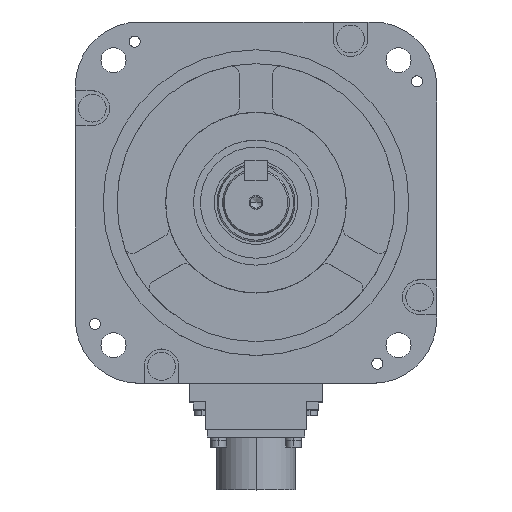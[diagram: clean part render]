
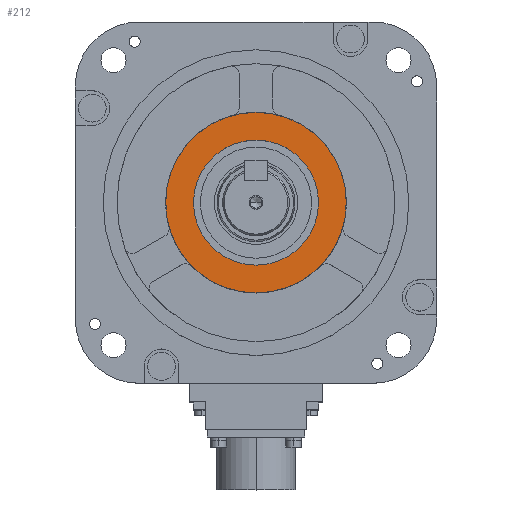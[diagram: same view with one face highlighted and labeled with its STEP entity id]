
A CAD part, top view. The second image highlights one B-rep face of the part: STEP entity #212.
In plain terms, the highlighted planar face has unit normal (0, 0, 1).
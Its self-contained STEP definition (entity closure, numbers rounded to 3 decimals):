
#212=ADVANCED_FACE('',(#1892,#1893),#1891,.T.);
#1891=PLANE('',#9112);
#1892=FACE_OUTER_BOUND('',#9113,.T.);
#1893=FACE_BOUND('',#9114,.T.);
#9109=CARTESIAN_POINT('',(-66.292,-74.75,6.));
#9110=DIRECTION('',(0.,0.,1.));
#9111=DIRECTION('',(1.,0.,0.));
#9112=AXIS2_PLACEMENT_3D('',#9109,#9110,#9111);
#9113=EDGE_LOOP('',(#12997,#12998));
#9114=EDGE_LOOP('',(#12999,#13000));
#12997=ORIENTED_EDGE('',*,*,#17051,.F.);
#12998=ORIENTED_EDGE('',*,*,#17052,.F.);
#12999=ORIENTED_EDGE('',*,*,#17053,.T.);
#13000=ORIENTED_EDGE('',*,*,#17054,.T.);
#17051=EDGE_CURVE('',#21062,#21063,#21064,.T.);
#17052=EDGE_CURVE('',#21063,#21062,#21070,.T.);
#17053=EDGE_CURVE('',#21076,#21077,#21078,.T.);
#17054=EDGE_CURVE('',#21077,#21076,#21084,.T.);
#21062=VERTEX_POINT('',#34005);
#21063=VERTEX_POINT('',#34006);
#21064=CIRCLE('',#34010,32.5);
#21070=CIRCLE('',#34014,32.5);
#21076=VERTEX_POINT('',#34015);
#21077=VERTEX_POINT('',#34016);
#21078=CIRCLE('',#34020,22.5);
#21084=CIRCLE('',#34024,22.5);
#34005=CARTESIAN_POINT('',(0.,-32.5,6.));
#34006=CARTESIAN_POINT('',(0.,32.5,6.));
#34007=CARTESIAN_POINT('',(0.,0.,6.));
#34008=DIRECTION('',(0.,0.,-1.));
#34009=DIRECTION('',(0.,1.,0.));
#34010=AXIS2_PLACEMENT_3D('',#34007,#34008,#34009);
#34011=CARTESIAN_POINT('',(0.,0.,6.));
#34012=DIRECTION('',(0.,0.,-1.));
#34013=DIRECTION('',(0.,1.,0.));
#34014=AXIS2_PLACEMENT_3D('',#34011,#34012,#34013);
#34015=CARTESIAN_POINT('',(0.,-22.5,6.));
#34016=CARTESIAN_POINT('',(0.,22.5,6.));
#34017=CARTESIAN_POINT('',(0.,0.,6.));
#34018=DIRECTION('',(0.,0.,-1.));
#34019=DIRECTION('',(0.,-1.,0.));
#34020=AXIS2_PLACEMENT_3D('',#34017,#34018,#34019);
#34021=CARTESIAN_POINT('',(0.,0.,6.));
#34022=DIRECTION('',(0.,0.,-1.));
#34023=DIRECTION('',(0.,-1.,0.));
#34024=AXIS2_PLACEMENT_3D('',#34021,#34022,#34023);
